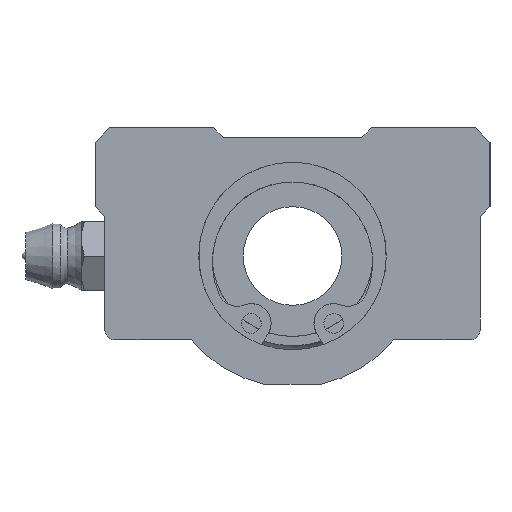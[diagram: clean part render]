
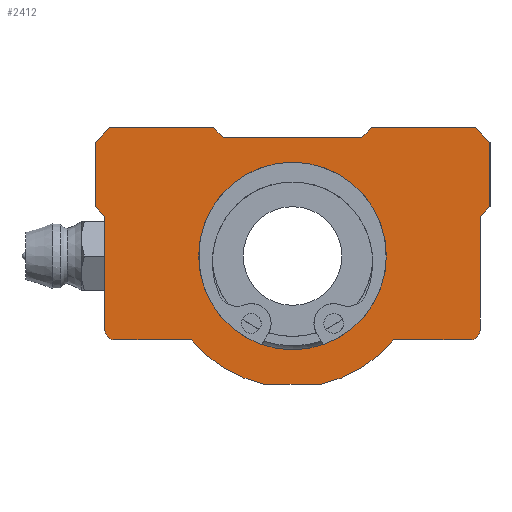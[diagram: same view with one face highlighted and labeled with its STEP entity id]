
A CAD part, left-side view. The second image highlights one B-rep face of the part: STEP entity #2412.
In plain terms, the highlighted planar face has unit normal (-1, 0, 0).
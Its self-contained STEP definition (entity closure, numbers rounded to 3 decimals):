
#1529=CARTESIAN_POINT('',(0.0,9.5,0.));
#1530=VERTEX_POINT('',#1529);
#1531=CARTESIAN_POINT('',(0.0,0.0,0.0));
#1532=DIRECTION('',(1.0,0.0,0.0));
#1533=DIRECTION('',(0.0,-1.0,0.0));
#1534=AXIS2_PLACEMENT_3D('',#1531,#1532,#1533);
#1535=CIRCLE('',#1534,9.5);
#1536=EDGE_CURVE('',#1530,#1530,#1535,.T.);
#1753=CARTESIAN_POINT('',(0.0,20.0,11.5));
#1754=VERTEX_POINT('',#1753);
#1769=CARTESIAN_POINT('',(0.0,20.0,5.));
#1770=VERTEX_POINT('',#1769);
#1777=CARTESIAN_POINT('',(0.0,20.0,5.));
#1778=DIRECTION('',(0.0,0.0,1.0));
#1779=VECTOR('',#1778,6.5);
#1780=LINE('',#1777,#1779);
#1781=EDGE_CURVE('',#1770,#1754,#1780,.T.);
#1791=CARTESIAN_POINT('',(0.0,19.,-7.5));
#1792=VERTEX_POINT('',#1791);
#1801=CARTESIAN_POINT('',(0.0,19.,4.));
#1802=VERTEX_POINT('',#1801);
#1803=CARTESIAN_POINT('',(0.0,19.,-7.5));
#1804=DIRECTION('',(0.0,0.0,1.0));
#1805=VECTOR('',#1804,11.5);
#1806=LINE('',#1803,#1805);
#1807=EDGE_CURVE('',#1792,#1802,#1806,.T.);
#1892=CARTESIAN_POINT('',(0.0,2.809,-13.0));
#1893=VERTEX_POINT('',#1892);
#1900=CARTESIAN_POINT('',(0.0,10.229,-8.5));
#1901=VERTEX_POINT('',#1900);
#1902=CARTESIAN_POINT('',(0.0,0.0,0.0));
#1903=DIRECTION('',(1.,0.0,0.0));
#1904=DIRECTION('',(0.0,0.211,-0.977));
#1905=AXIS2_PLACEMENT_3D('',#1902,#1903,#1904);
#1906=CIRCLE('',#1905,13.3);
#1907=EDGE_CURVE('',#1893,#1901,#1906,.T.);
#1931=CARTESIAN_POINT('',(0.0,-2.809,-13.0));
#1932=VERTEX_POINT('',#1931);
#1939=CARTESIAN_POINT('',(0.0,-2.809,-13.0));
#1940=DIRECTION('',(0.0,1.0,0.0));
#1941=VECTOR('',#1940,5.618);
#1942=LINE('',#1939,#1941);
#1943=EDGE_CURVE('',#1932,#1893,#1942,.T.);
#1963=CARTESIAN_POINT('',(0.0,-10.229,-8.5));
#1964=VERTEX_POINT('',#1963);
#1971=CARTESIAN_POINT('',(0.0,0.0,0.0));
#1972=DIRECTION('',(1.,0.0,0.0));
#1973=DIRECTION('',(0.0,0.211,-0.977));
#1974=AXIS2_PLACEMENT_3D('',#1971,#1972,#1973);
#1975=CIRCLE('',#1974,13.3);
#1976=EDGE_CURVE('',#1964,#1932,#1975,.T.);
#1987=CARTESIAN_POINT('',(0.0,-18.,-8.5));
#1988=VERTEX_POINT('',#1987);
#1997=CARTESIAN_POINT('',(0.0,-18.,-8.5));
#1998=DIRECTION('',(0.0,1.0,0.0));
#1999=VECTOR('',#1998,7.771);
#2000=LINE('',#1997,#1999);
#2001=EDGE_CURVE('',#1988,#1964,#2000,.T.);
#2024=CARTESIAN_POINT('',(0.0,-20.0,11.5));
#2025=VERTEX_POINT('',#2024);
#2034=CARTESIAN_POINT('',(0.0,-20.0,5.));
#2035=VERTEX_POINT('',#2034);
#2036=CARTESIAN_POINT('',(0.0,-20.0,11.5));
#2037=DIRECTION('',(0.0,0.0,-1.0));
#2038=VECTOR('',#2037,6.5);
#2039=LINE('',#2036,#2038);
#2040=EDGE_CURVE('',#2025,#2035,#2039,.T.);
#2066=CARTESIAN_POINT('',(0.0,-18.5,13.));
#2067=VERTEX_POINT('',#2066);
#2082=CARTESIAN_POINT('',(0.0,-8.0,13.));
#2083=VERTEX_POINT('',#2082);
#2090=CARTESIAN_POINT('',(0.0,-8.0,13.));
#2091=DIRECTION('',(0.0,-1.0,0.0));
#2092=VECTOR('',#2091,10.5);
#2093=LINE('',#2090,#2092);
#2094=EDGE_CURVE('',#2083,#2067,#2093,.T.);
#2117=CARTESIAN_POINT('',(0.0,-18.5,13.));
#2118=DIRECTION('',(0.0,-0.707,-0.707));
#2119=VECTOR('',#2118,2.121);
#2120=LINE('',#2117,#2119);
#2121=EDGE_CURVE('',#2067,#2025,#2120,.T.);
#2132=CARTESIAN_POINT('',(0.0,18.5,13.));
#2133=VERTEX_POINT('',#2132);
#2142=CARTESIAN_POINT('',(0.0,8.0,13.));
#2143=VERTEX_POINT('',#2142);
#2144=CARTESIAN_POINT('',(0.0,18.5,13.));
#2145=DIRECTION('',(0.0,-1.0,0.0));
#2146=VECTOR('',#2145,10.5);
#2147=LINE('',#2144,#2146);
#2148=EDGE_CURVE('',#2133,#2143,#2147,.T.);
#2185=CARTESIAN_POINT('',(0.0,20.0,11.5));
#2186=DIRECTION('',(0.0,-0.707,0.707));
#2187=VECTOR('',#2186,2.121);
#2188=LINE('',#2185,#2187);
#2189=EDGE_CURVE('',#1754,#2133,#2188,.T.);
#2200=CARTESIAN_POINT('',(0.0,-7.,12.));
#2201=VERTEX_POINT('',#2200);
#2202=CARTESIAN_POINT('',(0.0,-7.,12.));
#2203=DIRECTION('',(0.0,-0.707,0.707));
#2204=VECTOR('',#2203,1.414);
#2205=LINE('',#2202,#2204);
#2206=EDGE_CURVE('',#2201,#2083,#2205,.T.);
#2231=CARTESIAN_POINT('',(0.0,7.0,12.0));
#2232=VERTEX_POINT('',#2231);
#2241=CARTESIAN_POINT('',(0.0,7.0,12.0));
#2242=DIRECTION('',(0.0,-1.0,0.0));
#2243=VECTOR('',#2242,14.);
#2244=LINE('',#2241,#2243);
#2245=EDGE_CURVE('',#2232,#2201,#2244,.T.);
#2262=CARTESIAN_POINT('',(0.0,8.0,13.));
#2263=DIRECTION('',(0.0,-0.707,-0.707));
#2264=VECTOR('',#2263,1.414);
#2265=LINE('',#2262,#2264);
#2266=EDGE_CURVE('',#2143,#2232,#2265,.T.);
#2284=CARTESIAN_POINT('',(0.0,-19.,4.));
#2285=VERTEX_POINT('',#2284);
#2286=CARTESIAN_POINT('',(0.0,-20.0,5.));
#2287=DIRECTION('',(0.0,0.707,-0.707));
#2288=VECTOR('',#2287,1.414);
#2289=LINE('',#2286,#2288);
#2290=EDGE_CURVE('',#2035,#2285,#2289,.T.);
#2315=CARTESIAN_POINT('',(0.0,19.,4.));
#2316=DIRECTION('',(0.0,0.707,0.707));
#2317=VECTOR('',#2316,1.414);
#2318=LINE('',#2315,#2317);
#2319=EDGE_CURVE('',#1802,#1770,#2318,.T.);
#2339=CARTESIAN_POINT('',(0.0,-19.,-7.5));
#2340=VERTEX_POINT('',#2339);
#2354=CARTESIAN_POINT('',(0.0,-19.,4.));
#2355=DIRECTION('',(0.0,0.0,-1.0));
#2356=VECTOR('',#2355,11.5);
#2357=LINE('',#2354,#2356);
#2358=EDGE_CURVE('',#2285,#2340,#2357,.T.);
#2363=CARTESIAN_POINT('',(0.0,0.,1.154));
#2364=DIRECTION('',(1.0,0.0,0.0));
#2365=DIRECTION('',(0.0,0.0,-1.0));
#2366=AXIS2_PLACEMENT_3D('',#2363,#2364,#2365);
#2367=PLANE('',#2366);
#2368=CARTESIAN_POINT('',(0.0,18.,-8.5));
#2369=VERTEX_POINT('',#2368);
#2370=CARTESIAN_POINT('',(0.0,18.,-7.5));
#2371=DIRECTION('',(1.,0.0,0.0));
#2372=DIRECTION('',(0.0,0.707,-0.707));
#2373=AXIS2_PLACEMENT_3D('',#2370,#2371,#2372);
#2374=CIRCLE('',#2373,1.);
#2375=EDGE_CURVE('',#2369,#1792,#2374,.T.);
#2376=ORIENTED_EDGE('',*,*,#2375,.F.);
#2377=CARTESIAN_POINT('',(0.0,10.229,-8.5));
#2378=DIRECTION('',(0.0,1.0,0.0));
#2379=VECTOR('',#2378,7.771);
#2380=LINE('',#2377,#2379);
#2381=EDGE_CURVE('',#1901,#2369,#2380,.T.);
#2382=ORIENTED_EDGE('',*,*,#2381,.F.);
#2383=ORIENTED_EDGE('',*,*,#1907,.F.);
#2384=ORIENTED_EDGE('',*,*,#1943,.F.);
#2385=ORIENTED_EDGE('',*,*,#1976,.F.);
#2386=ORIENTED_EDGE('',*,*,#2001,.F.);
#2387=CARTESIAN_POINT('',(0.0,-18.,-7.5));
#2388=DIRECTION('',(1.,0.0,0.0));
#2389=DIRECTION('',(0.0,-0.707,-0.707));
#2390=AXIS2_PLACEMENT_3D('',#2387,#2388,#2389);
#2391=CIRCLE('',#2390,1.);
#2392=EDGE_CURVE('',#2340,#1988,#2391,.T.);
#2393=ORIENTED_EDGE('',*,*,#2392,.F.);
#2394=ORIENTED_EDGE('',*,*,#2358,.F.);
#2395=ORIENTED_EDGE('',*,*,#2290,.F.);
#2396=ORIENTED_EDGE('',*,*,#2040,.F.);
#2397=ORIENTED_EDGE('',*,*,#2121,.F.);
#2398=ORIENTED_EDGE('',*,*,#2094,.F.);
#2399=ORIENTED_EDGE('',*,*,#2206,.F.);
#2400=ORIENTED_EDGE('',*,*,#2245,.F.);
#2401=ORIENTED_EDGE('',*,*,#2266,.F.);
#2402=ORIENTED_EDGE('',*,*,#2148,.F.);
#2403=ORIENTED_EDGE('',*,*,#2189,.F.);
#2404=ORIENTED_EDGE('',*,*,#1781,.F.);
#2405=ORIENTED_EDGE('',*,*,#2319,.F.);
#2406=ORIENTED_EDGE('',*,*,#1807,.F.);
#2407=EDGE_LOOP('',(#2376,#2382,#2383,#2384,#2385,#2386,#2393,#2394,#2395,#2396,#2397,#2398,#2399,#2400,#2401,#2402,#2403,#2404,#2405,#2406));
#2408=FACE_OUTER_BOUND('',#2407,.T.);
#2409=ORIENTED_EDGE('',*,*,#1536,.T.);
#2410=EDGE_LOOP('',(#2409));
#2411=FACE_BOUND('',#2410,.T.);
#2412=ADVANCED_FACE('',(#2408,#2411),#2367,.F.);
